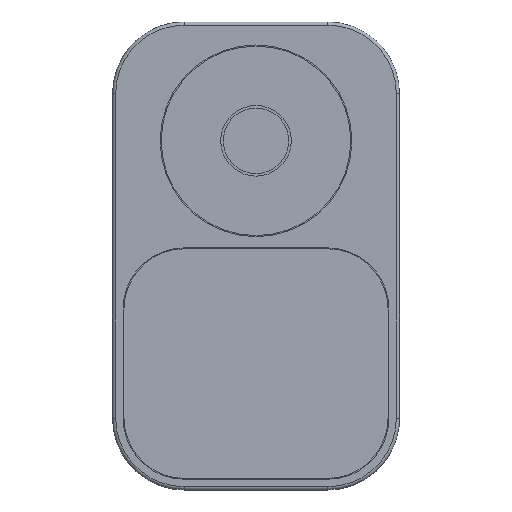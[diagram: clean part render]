
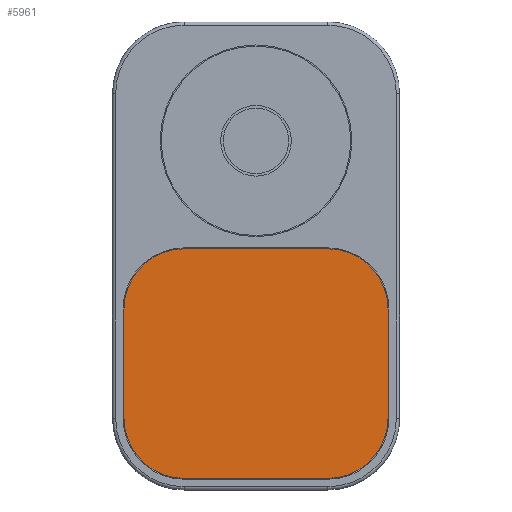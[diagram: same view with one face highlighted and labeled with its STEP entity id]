
A CAD part, top view. The second image highlights one B-rep face of the part: STEP entity #5961.
In plain terms, the highlighted planar face has unit normal (0, 0, 1).
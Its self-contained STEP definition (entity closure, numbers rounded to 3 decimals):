
#5712 = VERTEX_POINT('',#5713);
#5713 = CARTESIAN_POINT('',(12.5,0.5,14.2));
#5729 = VERTEX_POINT('',#5730);
#5730 = CARTESIAN_POINT('',(2.,11.,14.2));
#5736 = EDGE_CURVE('',#5729,#5712,#5737,.T.);
#5737 = CIRCLE('',#5738,10.5);
#5738 = AXIS2_PLACEMENT_3D('',#5739,#5740,#5741);
#5739 = CARTESIAN_POINT('',(12.5,11.,14.2));
#5740 = DIRECTION('',(0.,0.,1.));
#5741 = DIRECTION('',(1.,0.,0.));
#5760 = EDGE_CURVE('',#5712,#5761,#5763,.T.);
#5761 = VERTEX_POINT('',#5762);
#5762 = CARTESIAN_POINT('',(37.5,0.5,14.2));
#5763 = LINE('',#5764,#5765);
#5764 = CARTESIAN_POINT('',(12.5,0.5,14.2));
#5765 = VECTOR('',#5766,1.);
#5766 = DIRECTION('',(1.,0.,0.));
#5792 = VERTEX_POINT('',#5793);
#5793 = CARTESIAN_POINT('',(2.,30.,14.2));
#5799 = EDGE_CURVE('',#5729,#5792,#5800,.T.);
#5800 = LINE('',#5801,#5802);
#5801 = CARTESIAN_POINT('',(2.,11.,14.2));
#5802 = VECTOR('',#5803,1.);
#5803 = DIRECTION('',(0.,1.,0.));
#5816 = VERTEX_POINT('',#5817);
#5817 = CARTESIAN_POINT('',(48.,11.,14.2));
#5831 = EDGE_CURVE('',#5761,#5816,#5832,.T.);
#5832 = CIRCLE('',#5833,10.5);
#5833 = AXIS2_PLACEMENT_3D('',#5834,#5835,#5836);
#5834 = CARTESIAN_POINT('',(37.5,11.,14.2));
#5835 = DIRECTION('',(0.,0.,1.));
#5836 = DIRECTION('',(1.,0.,0.));
#5856 = VERTEX_POINT('',#5857);
#5857 = CARTESIAN_POINT('',(12.5,40.5,14.2));
#5863 = EDGE_CURVE('',#5856,#5792,#5864,.T.);
#5864 = CIRCLE('',#5865,10.5);
#5865 = AXIS2_PLACEMENT_3D('',#5866,#5867,#5868);
#5866 = CARTESIAN_POINT('',(12.5,30.,14.2));
#5867 = DIRECTION('',(0.,0.,1.));
#5868 = DIRECTION('',(1.,0.,0.));
#5888 = EDGE_CURVE('',#5856,#5889,#5891,.T.);
#5889 = VERTEX_POINT('',#5890);
#5890 = CARTESIAN_POINT('',(37.5,40.5,14.2));
#5891 = LINE('',#5892,#5893);
#5892 = CARTESIAN_POINT('',(12.5,40.5,14.2));
#5893 = VECTOR('',#5894,1.);
#5894 = DIRECTION('',(1.,0.,0.));
#5920 = VERTEX_POINT('',#5921);
#5921 = CARTESIAN_POINT('',(48.,30.,14.2));
#5927 = EDGE_CURVE('',#5816,#5920,#5928,.T.);
#5928 = LINE('',#5929,#5930);
#5929 = CARTESIAN_POINT('',(48.,11.,14.2));
#5930 = VECTOR('',#5931,1.);
#5931 = DIRECTION('',(0.,1.,0.));
#5949 = EDGE_CURVE('',#5920,#5889,#5950,.T.);
#5950 = CIRCLE('',#5951,10.5);
#5951 = AXIS2_PLACEMENT_3D('',#5952,#5953,#5954);
#5952 = CARTESIAN_POINT('',(37.5,30.,14.2));
#5953 = DIRECTION('',(0.,0.,1.));
#5954 = DIRECTION('',(1.,0.,0.));
#5961 = ADVANCED_FACE('',(#5962),#5972,.T.);
#5962 = FACE_BOUND('',#5963,.T.);
#5963 = EDGE_LOOP('',(#5964,#5965,#5966,#5967,#5968,#5969,#5970,#5971));
#5964 = ORIENTED_EDGE('',*,*,#5736,.T.);
#5965 = ORIENTED_EDGE('',*,*,#5760,.T.);
#5966 = ORIENTED_EDGE('',*,*,#5831,.T.);
#5967 = ORIENTED_EDGE('',*,*,#5927,.T.);
#5968 = ORIENTED_EDGE('',*,*,#5949,.T.);
#5969 = ORIENTED_EDGE('',*,*,#5888,.F.);
#5970 = ORIENTED_EDGE('',*,*,#5863,.T.);
#5971 = ORIENTED_EDGE('',*,*,#5799,.F.);
#5972 = PLANE('',#5973);
#5973 = AXIS2_PLACEMENT_3D('',#5974,#5975,#5976);
#5974 = CARTESIAN_POINT('',(25.,20.5,14.2));
#5975 = DIRECTION('',(0.,0.,1.));
#5976 = DIRECTION('',(1.,0.,-0.));
